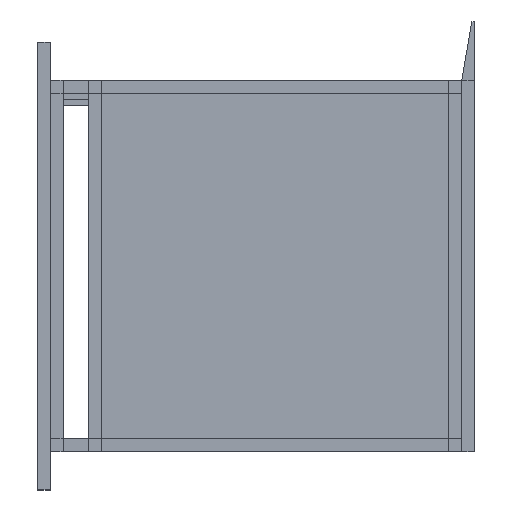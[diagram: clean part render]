
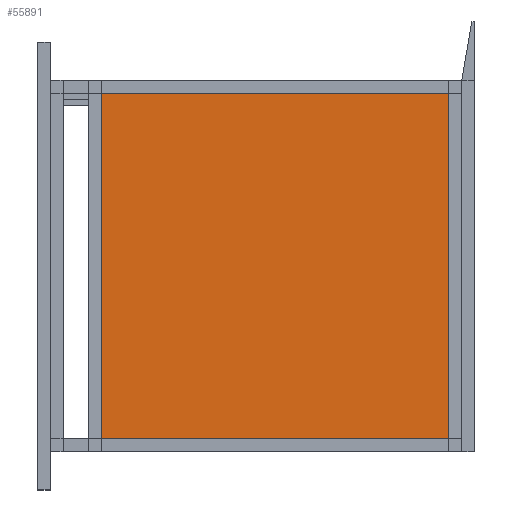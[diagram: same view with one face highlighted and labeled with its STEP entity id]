
A CAD part, left-side view. The second image highlights one B-rep face of the part: STEP entity #55891.
In plain terms, the highlighted planar face has unit normal (-1, 0, 0).
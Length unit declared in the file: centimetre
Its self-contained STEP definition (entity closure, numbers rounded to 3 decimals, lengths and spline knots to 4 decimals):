
#756 = VERTEX_POINT ( 'NONE', #45856 ) ;
#954 = EDGE_CURVE ( 'NONE', #756, #1664, #6706, .T. ) ;
#1664 = VERTEX_POINT ( 'NONE', #37832 ) ;
#1847 = B_SPLINE_CURVE_WITH_KNOTS ( 'NONE', 1,
 ( #5962, #46049 ),
 .UNSPECIFIED., .F., .F.,
 ( 2, 2 ),
 ( 3015.0335, 5556.0893 ),
 .UNSPECIFIED. ) ;
#5962 = CARTESIAN_POINT ( 'NONE',  ( -48.763, 381.8117, 513.4607 ) ) ;
#6706 = B_SPLINE_CURVE_WITH_KNOTS ( 'NONE', 1,
 ( #39593, #54343 ),
 .UNSPECIFIED., .F., .F.,
 ( 2, 2 ),
 ( 5556.0893, 8571.1228 ),
 .UNSPECIFIED. ) ;
#8476 = CARTESIAN_POINT ( 'NONE',  ( -48.763, 110.3084, 243.2897 ) ) ;
#8525 = EDGE_CURVE ( 'NONE', #13026, #756, #1847, .T. ) ;
#9119 = FACE_OUTER_BOUND ( 'NONE', #15965, .T. ) ;
#9334 = CARTESIAN_POINT ( 'NONE',  ( -48.763, 381.8117, 513.4607 ) ) ;
#12760 = ORIENTED_EDGE ( 'NONE', *, *, #8525, .T. ) ;
#13026 = VERTEX_POINT ( 'NONE', #36726 ) ;
#15191 = B_SPLINE_CURVE_WITH_KNOTS ( 'NONE', 1,
 ( #45474, #9334 ),
 .UNSPECIFIED., .F., .F.,
 ( 2, 2 ),
 ( 0., 3015.0335 ),
 .UNSPECIFIED. ) ;
#15965 = EDGE_LOOP ( 'NONE', ( #41044, #12760, #22558, #25781 ) ) ;
#18347 = DIRECTION ( 'NONE',  ( -1., 0., 0. ) ) ;
#21135 = CARTESIAN_POINT ( 'NONE',  ( -48.763, 110.3084, 513.4607 ) ) ;
#22558 = ORIENTED_EDGE ( 'NONE', *, *, #954, .T. ) ;
#24877 = PLANE ( 'NONE',  #57796 ) ;
#25781 = ORIENTED_EDGE ( 'NONE', *, *, #40975, .T. ) ;
#27944 = VERTEX_POINT ( 'NONE', #21135 ) ;
#30652 = EDGE_CURVE ( 'NONE', #27944, #13026, #15191, .T. ) ;
#32807 = CARTESIAN_POINT ( 'NONE',  ( -48.763, 110.3084, 243.2897 ) ) ;
#36726 = CARTESIAN_POINT ( 'NONE',  ( -48.763, 381.8117, 513.4607 ) ) ;
#37832 = CARTESIAN_POINT ( 'NONE',  ( -48.763, 110.3084, 243.2897 ) ) ;
#38691 = CARTESIAN_POINT ( 'NONE',  ( -48.763, 110.3084, 513.4607 ) ) ;
#38724 = DIRECTION ( 'NONE',  ( 0., 0., -1. ) ) ;
#39593 = CARTESIAN_POINT ( 'NONE',  ( -48.763, 381.8117, 243.2897 ) ) ;
#40975 = EDGE_CURVE ( 'NONE', #1664, #27944, #53154, .T. ) ;
#41044 = ORIENTED_EDGE ( 'NONE', *, *, #30652, .T. ) ;
#45474 = CARTESIAN_POINT ( 'NONE',  ( -48.763, 110.3084, 513.4607 ) ) ;
#45856 = CARTESIAN_POINT ( 'NONE',  ( -48.763, 381.8117, 243.2897 ) ) ;
#46049 = CARTESIAN_POINT ( 'NONE',  ( -48.763, 381.8117, 243.2897 ) ) ;
#53154 = B_SPLINE_CURVE_WITH_KNOTS ( 'NONE', 1,
 ( #32807, #38691 ),
 .UNSPECIFIED., .F., .F.,
 ( 2, 2 ),
 ( 8571.1228, 11112.1786 ),
 .UNSPECIFIED. ) ;
#54343 = CARTESIAN_POINT ( 'NONE',  ( -48.763, 110.3084, 243.2897 ) ) ;
#55891 = ADVANCED_FACE ( 'NONE', ( #9119 ), #24877, .T. ) ;
#57796 = AXIS2_PLACEMENT_3D ( 'NONE', #8476, #18347, #38724 ) ;
